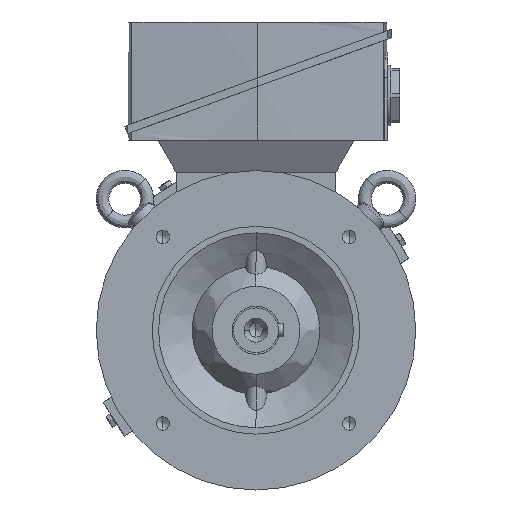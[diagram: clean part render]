
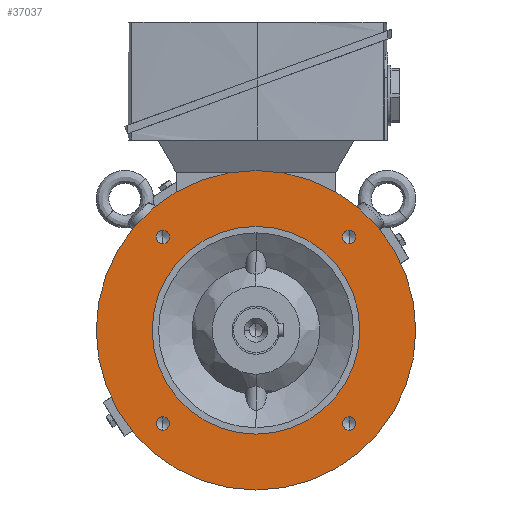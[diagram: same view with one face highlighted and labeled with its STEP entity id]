
A CAD part, left-side view. The second image highlights one B-rep face of the part: STEP entity #37037.
In plain terms, the highlighted planar face has unit normal (-1, 0, 0).
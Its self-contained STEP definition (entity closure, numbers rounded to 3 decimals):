
#168 = EDGE_CURVE ( 'NONE', #29191, #28816, #32915, .T. ) ;
#189 = FACE_BOUND ( 'NONE', #7822, .T. ) ;
#417 = VERTEX_POINT ( 'NONE', #30994 ) ;
#1813 = CIRCLE ( 'NONE', #23744, 4.19 ) ;
#2128 = EDGE_CURVE ( 'NONE', #12368, #7136, #33412, .T. ) ;
#3619 = EDGE_LOOP ( 'NONE', ( #15338, #15916 ) ) ;
#3723 = ORIENTED_EDGE ( 'NONE', *, *, #20277, .T. ) ;
#3849 = CARTESIAN_POINT ( 'NONE',  ( -40.5, 0., -65. ) ) ;
#4556 = CIRCLE ( 'NONE', #21311, 4.19 ) ;
#4568 = CARTESIAN_POINT ( 'NONE',  ( -40.5, -58.336, -58.336 ) ) ;
#4834 = EDGE_CURVE ( 'NONE', #28816, #29191, #1813, .T. ) ;
#5254 = ORIENTED_EDGE ( 'NONE', *, *, #2128, .T. ) ;
#5304 = AXIS2_PLACEMENT_3D ( 'NONE', #25483, #7592, #28530 ) ;
#5768 = CARTESIAN_POINT ( 'NONE',  ( -40.5, 58.336, -58.336 ) ) ;
#6154 = DIRECTION ( 'NONE',  ( 1., 0., 0. ) ) ;
#6170 = CARTESIAN_POINT ( 'NONE',  ( -40.5, 58.336, 58.336 ) ) ;
#6726 = CARTESIAN_POINT ( 'NONE',  ( -40.5, 58.336, -54.146 ) ) ;
#6778 = AXIS2_PLACEMENT_3D ( 'NONE', #11775, #32701, #14767 ) ;
#7116 = CARTESIAN_POINT ( 'NONE',  ( -40.5, 0., 65. ) ) ;
#7136 = VERTEX_POINT ( 'NONE', #8617 ) ;
#7560 = DIRECTION ( 'NONE',  ( 0., 0., -1. ) ) ;
#7592 = DIRECTION ( 'NONE',  ( 1., 0., 0. ) ) ;
#7822 = EDGE_LOOP ( 'NONE', ( #24327, #9888 ) ) ;
#7902 = CIRCLE ( 'NONE', #20947, 65. ) ;
#8173 = FACE_BOUND ( 'NONE', #11736, .T. ) ;
#8213 = ORIENTED_EDGE ( 'NONE', *, *, #28931, .F. ) ;
#8617 = CARTESIAN_POINT ( 'NONE',  ( -40.5, 58.336, -62.526 ) ) ;
#8772 = DIRECTION ( 'NONE',  ( 0., 0., -1. ) ) ;
#8919 = CARTESIAN_POINT ( 'NONE',  ( -40.5, -58.336, 58.336 ) ) ;
#9153 = DIRECTION ( 'NONE',  ( 0., 0., -1. ) ) ;
#9308 = AXIS2_PLACEMENT_3D ( 'NONE', #14970, #35949, #17991 ) ;
#9888 = ORIENTED_EDGE ( 'NONE', *, *, #33417, .T. ) ;
#10056 = CARTESIAN_POINT ( 'NONE',  ( -40.5, 58.336, 62.526 ) ) ;
#10104 = ORIENTED_EDGE ( 'NONE', *, *, #30422, .F. ) ;
#10581 = DIRECTION ( 'NONE',  ( -1., 0., 0. ) ) ;
#10624 = ORIENTED_EDGE ( 'NONE', *, *, #24848, .T. ) ;
#11213 = CIRCLE ( 'NONE', #6778, 100. ) ;
#11413 = AXIS2_PLACEMENT_3D ( 'NONE', #24818, #27453, #18143 ) ;
#11488 = EDGE_LOOP ( 'NONE', ( #10104, #8213 ) ) ;
#11736 = EDGE_LOOP ( 'NONE', ( #20600, #3723 ) ) ;
#11775 = CARTESIAN_POINT ( 'NONE',  ( -40.5, 0., 0. ) ) ;
#11937 = DIRECTION ( 'NONE',  ( 0., 0., -1. ) ) ;
#12180 = AXIS2_PLACEMENT_3D ( 'NONE', #8919, #29874, #11937 ) ;
#12368 = VERTEX_POINT ( 'NONE', #6726 ) ;
#12456 = VERTEX_POINT ( 'NONE', #7116 ) ;
#12766 = CARTESIAN_POINT ( 'NONE',  ( -40.5, 0., 0. ) ) ;
#13016 = EDGE_CURVE ( 'NONE', #19070, #33825, #32867, .T. ) ;
#14767 = DIRECTION ( 'NONE',  ( 0., 0., 1. ) ) ;
#14970 = CARTESIAN_POINT ( 'NONE',  ( -40.5, 0., 0. ) ) ;
#15292 = AXIS2_PLACEMENT_3D ( 'NONE', #4568, #25450, #7560 ) ;
#15338 = ORIENTED_EDGE ( 'NONE', *, *, #30915, .T. ) ;
#15748 = DIRECTION ( 'NONE',  ( 0., 0., 1. ) ) ;
#15916 = ORIENTED_EDGE ( 'NONE', *, *, #38850, .T. ) ;
#16076 = CARTESIAN_POINT ( 'NONE',  ( -40.5, -58.336, -58.336 ) ) ;
#16385 = CARTESIAN_POINT ( 'NONE',  ( -40.5, 0., 100. ) ) ;
#16435 = PLANE ( 'NONE',  #28428 ) ;
#16944 = CIRCLE ( 'NONE', #9308, 65. ) ;
#17256 = CARTESIAN_POINT ( 'NONE',  ( -40.5, -58.336, -54.146 ) ) ;
#17926 = VERTEX_POINT ( 'NONE', #3849 ) ;
#17991 = DIRECTION ( 'NONE',  ( 0., 0., 1. ) ) ;
#18039 = AXIS2_PLACEMENT_3D ( 'NONE', #27060, #24437, #21434 ) ;
#18069 = VERTEX_POINT ( 'NONE', #16385 ) ;
#18143 = DIRECTION ( 'NONE',  ( 0., 0., -1. ) ) ;
#19070 = VERTEX_POINT ( 'NONE', #32298 ) ;
#19105 = DIRECTION ( 'NONE',  ( 0., 0., -1. ) ) ;
#19872 = FACE_BOUND ( 'NONE', #3619, .T. ) ;
#20277 = EDGE_CURVE ( 'NONE', #33825, #19070, #32129, .T. ) ;
#20600 = ORIENTED_EDGE ( 'NONE', *, *, #13016, .T. ) ;
#20947 = AXIS2_PLACEMENT_3D ( 'NONE', #12766, #33718, #15748 ) ;
#21225 = CARTESIAN_POINT ( 'NONE',  ( -40.5, 0., -100. ) ) ;
#21311 = AXIS2_PLACEMENT_3D ( 'NONE', #5768, #26666, #8772 ) ;
#21434 = DIRECTION ( 'NONE',  ( 0., 0., -1. ) ) ;
#21570 = AXIS2_PLACEMENT_3D ( 'NONE', #24040, #6154, #27047 ) ;
#21756 = EDGE_CURVE ( 'NONE', #35565, #417, #37121, .T. ) ;
#22271 = EDGE_LOOP ( 'NONE', ( #10624, #5254 ) ) ;
#22489 = CARTESIAN_POINT ( 'NONE',  ( -40.5, 58.336, 54.146 ) ) ;
#23243 = AXIS2_PLACEMENT_3D ( 'NONE', #16076, #37081, #19105 ) ;
#23744 = AXIS2_PLACEMENT_3D ( 'NONE', #6170, #27066, #9153 ) ;
#24040 = CARTESIAN_POINT ( 'NONE',  ( -40.5, 0., 0. ) ) ;
#24048 = FACE_BOUND ( 'NONE', #22271, .T. ) ;
#24327 = ORIENTED_EDGE ( 'NONE', *, *, #21756, .T. ) ;
#24437 = DIRECTION ( 'NONE',  ( 1., 0., 0. ) ) ;
#24818 = CARTESIAN_POINT ( 'NONE',  ( -40.5, 58.336, -58.336 ) ) ;
#24848 = EDGE_CURVE ( 'NONE', #7136, #12368, #4556, .T. ) ;
#25450 = DIRECTION ( 'NONE',  ( 1., 0., 0. ) ) ;
#25483 = CARTESIAN_POINT ( 'NONE',  ( -40.5, -58.336, 58.336 ) ) ;
#26666 = DIRECTION ( 'NONE',  ( 1., 0., 0. ) ) ;
#27047 = DIRECTION ( 'NONE',  ( 0., 0., 1. ) ) ;
#27060 = CARTESIAN_POINT ( 'NONE',  ( -40.5, 58.336, 58.336 ) ) ;
#27066 = DIRECTION ( 'NONE',  ( 1., 0., 0. ) ) ;
#27453 = DIRECTION ( 'NONE',  ( 1., 0., 0. ) ) ;
#28428 = AXIS2_PLACEMENT_3D ( 'NONE', #28505, #10581, #31518 ) ;
#28505 = CARTESIAN_POINT ( 'NONE',  ( -40.5, 0., 82.5 ) ) ;
#28530 = DIRECTION ( 'NONE',  ( 0., 0., -1. ) ) ;
#28816 = VERTEX_POINT ( 'NONE', #22489 ) ;
#28931 = EDGE_CURVE ( 'NONE', #36341, #18069, #11213, .T. ) ;
#29191 = VERTEX_POINT ( 'NONE', #10056 ) ;
#29346 = CIRCLE ( 'NONE', #12180, 4.19 ) ;
#29874 = DIRECTION ( 'NONE',  ( 1., 0., 0. ) ) ;
#30422 = EDGE_CURVE ( 'NONE', #18069, #36341, #32021, .T. ) ;
#30915 = EDGE_CURVE ( 'NONE', #12456, #17926, #16944, .T. ) ;
#30994 = CARTESIAN_POINT ( 'NONE',  ( -40.5, -58.336, 62.526 ) ) ;
#31079 = EDGE_LOOP ( 'NONE', ( #38379, #38020 ) ) ;
#31518 = DIRECTION ( 'NONE',  ( 0., 0., 1. ) ) ;
#32021 = CIRCLE ( 'NONE', #21570, 100. ) ;
#32047 = FACE_BOUND ( 'NONE', #31079, .T. ) ;
#32129 = CIRCLE ( 'NONE', #23243, 4.19 ) ;
#32298 = CARTESIAN_POINT ( 'NONE',  ( -40.5, -58.336, -62.526 ) ) ;
#32701 = DIRECTION ( 'NONE',  ( 1., 0., 0. ) ) ;
#32867 = CIRCLE ( 'NONE', #15292, 4.19 ) ;
#32915 = CIRCLE ( 'NONE', #18039, 4.19 ) ;
#33412 = CIRCLE ( 'NONE', #11413, 4.19 ) ;
#33417 = EDGE_CURVE ( 'NONE', #417, #35565, #29346, .T. ) ;
#33718 = DIRECTION ( 'NONE',  ( 1., 0., 0. ) ) ;
#33825 = VERTEX_POINT ( 'NONE', #17256 ) ;
#34892 = FACE_OUTER_BOUND ( 'NONE', #11488, .T. ) ;
#35565 = VERTEX_POINT ( 'NONE', #37457 ) ;
#35949 = DIRECTION ( 'NONE',  ( 1., 0., 0. ) ) ;
#36341 = VERTEX_POINT ( 'NONE', #21225 ) ;
#37037 = ADVANCED_FACE ( 'NONE', ( #19872, #34892, #32047, #24048, #8173, #189 ), #16435, .T. ) ;
#37081 = DIRECTION ( 'NONE',  ( 1., 0., 0. ) ) ;
#37121 = CIRCLE ( 'NONE', #5304, 4.19 ) ;
#37457 = CARTESIAN_POINT ( 'NONE',  ( -40.5, -58.336, 54.146 ) ) ;
#38020 = ORIENTED_EDGE ( 'NONE', *, *, #168, .T. ) ;
#38379 = ORIENTED_EDGE ( 'NONE', *, *, #4834, .T. ) ;
#38850 = EDGE_CURVE ( 'NONE', #17926, #12456, #7902, .T. ) ;
